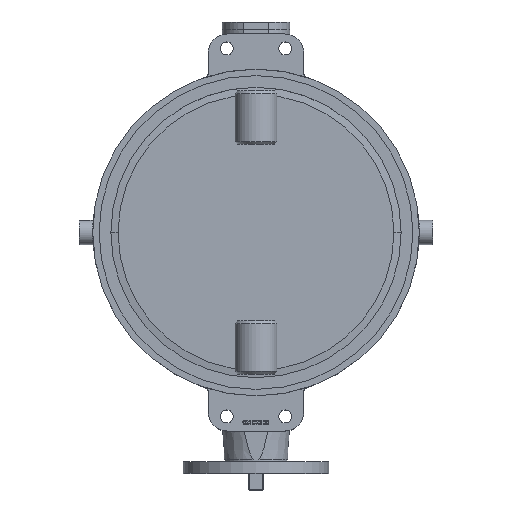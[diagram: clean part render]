
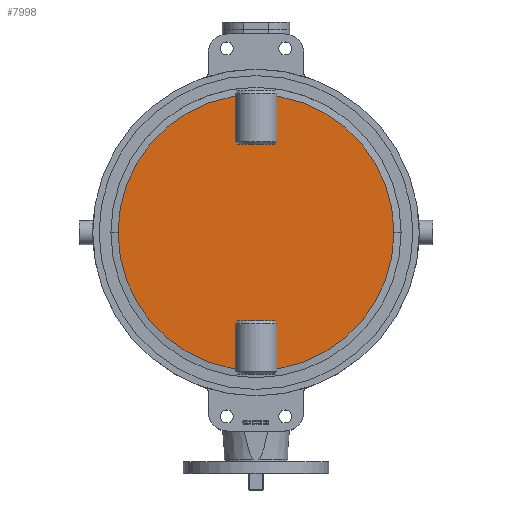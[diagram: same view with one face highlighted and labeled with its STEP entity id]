
A CAD part, top view. The second image highlights one B-rep face of the part: STEP entity #7998.
In plain terms, the highlighted planar face has unit normal (0, 0, 1).
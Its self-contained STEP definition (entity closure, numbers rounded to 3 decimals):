
#7938=CARTESIAN_POINT('',(285.0,0.,84.));
#7939=VERTEX_POINT('',#7938);
#7953=CARTESIAN_POINT('',(-285.0,0.0,84.));
#7954=VERTEX_POINT('',#7953);
#7961=CARTESIAN_POINT('',(0.0,0.0,84.));
#7962=DIRECTION('',(0.0,0.0,-1.0));
#7963=DIRECTION('',(1.0,0.0,0.0));
#7964=AXIS2_PLACEMENT_3D('',#7961,#7962,#7963);
#7965=CIRCLE('',#7964,285.0);
#7966=EDGE_CURVE('',#7954,#7939,#7965,.T.);
#7977=CARTESIAN_POINT('',(0.0,0.0,84.));
#7978=DIRECTION('',(0.0,0.0,-1.0));
#7979=DIRECTION('',(1.0,0.0,0.0));
#7980=AXIS2_PLACEMENT_3D('',#7977,#7978,#7979);
#7981=CIRCLE('',#7980,285.0);
#7982=EDGE_CURVE('',#7939,#7954,#7981,.T.);
#7989=CARTESIAN_POINT('',(0.0,0.0,84.));
#7990=DIRECTION('',(0.0,0.0,1.0));
#7991=DIRECTION('',(-1.0,0.0,0.0));
#7992=AXIS2_PLACEMENT_3D('',#7989,#7990,#7991);
#7993=PLANE('',#7992);
#7994=ORIENTED_EDGE('',*,*,#7966,.F.);
#7995=ORIENTED_EDGE('',*,*,#7982,.F.);
#7996=EDGE_LOOP('',(#7994,#7995));
#7997=FACE_OUTER_BOUND('',#7996,.T.);
#7998=ADVANCED_FACE('',(#7997),#7993,.T.);
